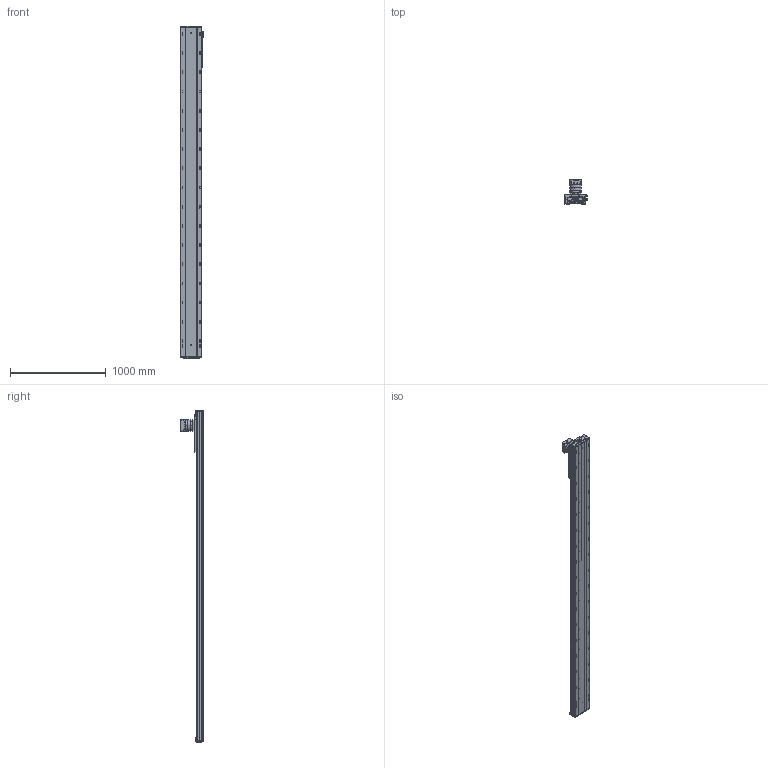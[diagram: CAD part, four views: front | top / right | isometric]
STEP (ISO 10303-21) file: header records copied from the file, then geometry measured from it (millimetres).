
FILE_DESCRIPTION (( 'STEP AP203' ), '1' );
FILE_NAME ('RY220-C-300-UK.SLDASM_2950.step', '2022-08-01T06:00:37', ( '' ), ( '' ), 'SwSTEP 2.0', 'SolidWorks 2016', '' );
FILE_SCHEMA (( 'CONFIG_CONTROL_DESIGN' ));
Length unit declared in the file: millimetre
Products named in the file (10): RY220菁釱MK-300_2950; PF115L1-S2-22-58-110-145-M8; RY220-齿条模组电机安装板; RY220-C-300-UK.SLDASM_2950; 滅袉蝶輸ㄗG412隅秶ㄘ; RY220喘沭綴裔啣; RY140直线电机感应器674光电安装座; RY220喘沭賑輸; 覜茼ん674; RY220喘沭俋离覜茼え
Assembly tree (12 placements, depth 2):
  RY220-C-300-UK.SLDASM_2950
    RY220菁釱MK-300_2950
    RY220喘沭賑輸
    RY220-齿条模组电机安装板
    PF115L1-S2-22-58-110-145-M8
    RY220喘沭綴裔啣  x2
    滅袉蝶輸ㄗG412隅秶ㄘ  x2
    RY140直线电机感应器674光电安装座
    覜茼ん674  x2
    RY220喘沭俋离覜茼え
Bounding box: 247 x 244.5 x 3459 mm (x, y, z)
Volume: 22885777.1 mm3; surface area: 4726356 mm2
Topology: 18 solids, 26 shells, 2430 faces, 6559 edges, 4084 vertices
Faces by surface type: cylinder 1197, plane 751, cone 320, bspline 162
Entity records: 77485 total; most frequent: CARTESIAN_POINT 21002, DIRECTION 11711, ORIENTED_EDGE 11378, EDGE_CURVE 5689, AXIS2_PLACEMENT_3D 4501, VERTEX_POINT 3710, EDGE_LOOP 2867, LINE 2709
